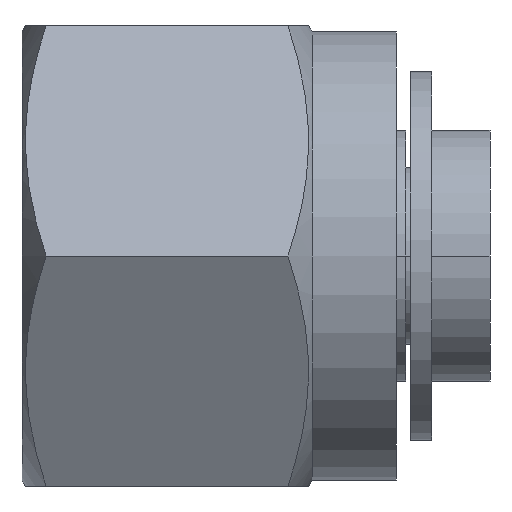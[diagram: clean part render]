
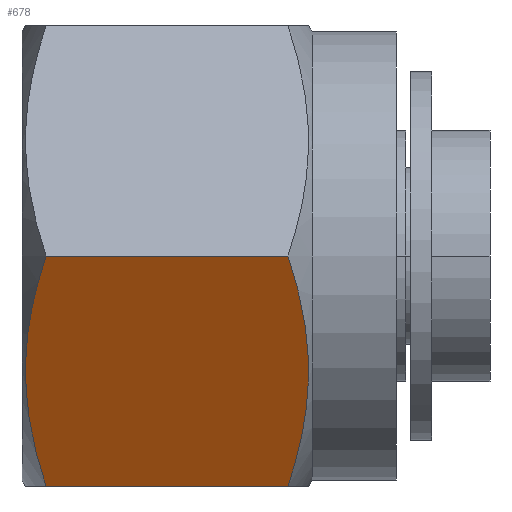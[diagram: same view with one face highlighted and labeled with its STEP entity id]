
A CAD part, front view. The second image highlights one B-rep face of the part: STEP entity #678.
In plain terms, the highlighted planar face has unit normal (0, -0.866, -0.5).
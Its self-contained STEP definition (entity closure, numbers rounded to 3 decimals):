
#491 = VERTEX_POINT ( 'NONE', #1834 ) ;
#493 = EDGE_CURVE ( 'NONE', #491, #494, #1827, .T. ) ;
#494 = VERTEX_POINT ( 'NONE', #1826 ) ;
#652 = VERTEX_POINT ( 'NONE', #2228 ) ;
#654 = EDGE_CURVE ( 'NONE', #652, #655, #2279, .T. ) ;
#655 = VERTEX_POINT ( 'NONE', #2278 ) ;
#667 = ORIENTED_EDGE ( 'NONE', *, *, #493, .F. ) ;
#668 = ORIENTED_EDGE ( 'NONE', *, *, #669, .F. ) ;
#669 = EDGE_CURVE ( 'NONE', #655, #491, #2305, .T. ) ;
#670 = ORIENTED_EDGE ( 'NONE', *, *, #654, .F. ) ;
#671 = ORIENTED_EDGE ( 'NONE', *, *, #675, .T. ) ;
#675 = EDGE_CURVE ( 'NONE', #652, #494, #2301, .T. ) ;
#678 = ADVANCED_FACE ( 'NONE', ( #2297 ), #2294, .F. ) ;
#679 = EDGE_LOOP ( 'NONE', ( #667, #668, #670, #671 ) ) ;
#955 = CARTESIAN_POINT ( 'NONE',  ( 14.2, -10.081, 0. ) ) ;
#1202 = DIRECTION ( 'NONE',  ( 0., 0.866, 0.5 ) ) ;
#1457 = DIRECTION ( 'NONE',  ( 0., -0.5, 0.866 ) ) ;
#1814 = CARTESIAN_POINT ( 'NONE',  ( 0.913, -10.081, 0. ) ) ;
#1815 = CARTESIAN_POINT ( 'NONE',  ( 0.675, -9.669, -0.714 ) ) ;
#1816 = CARTESIAN_POINT ( 'NONE',  ( 0.478, -9.253, -1.433 ) ) ;
#1817 = CARTESIAN_POINT ( 'NONE',  ( 0.275, -8.622, -2.526 ) ) ;
#1818 = CARTESIAN_POINT ( 'NONE',  ( 0.222, -8.411, -2.892 ) ) ;
#1819 = CARTESIAN_POINT ( 'NONE',  ( 0.151, -7.985, -3.629 ) ) ;
#1820 = CARTESIAN_POINT ( 'NONE',  ( 0.133, -7.77, -4.002 ) ) ;
#1821 = CARTESIAN_POINT ( 'NONE',  ( 0.133, -7.127, -5.116 ) ) ;
#1822 = CARTESIAN_POINT ( 'NONE',  ( 0.208, -6.704, -5.849 ) ) ;
#1823 = CARTESIAN_POINT ( 'NONE',  ( 0.479, -5.866, -7.299 ) ) ;
#1824 = CARTESIAN_POINT ( 'NONE',  ( 0.675, -5.452, -8.017 ) ) ;
#1825 = CARTESIAN_POINT ( 'NONE',  ( 0.913, -5.04, -8.73 ) ) ;
#1826 = CARTESIAN_POINT ( 'NONE',  ( 0.913, -10.081, 0. ) ) ;
#1827 = B_SPLINE_CURVE_WITH_KNOTS ( 'NONE', 3,
 ( #1825, #1824, #1823, #1822, #1821, #1820, #1819, #1818, #1817, #1816, #1815, #1814 ),
 .UNSPECIFIED., .F., .F.,
 ( 4, 2, 2, 2, 2, 4 ),
 ( 0., 0.003, 0.005, 0.006, 0.008, 0.01 ),
 .UNSPECIFIED. ) ;
#1834 = CARTESIAN_POINT ( 'NONE',  ( 0.913, -5.04, -8.73 ) ) ;
#2228 = CARTESIAN_POINT ( 'NONE',  ( 10.087, -10.081, 0. ) ) ;
#2265 = CARTESIAN_POINT ( 'NONE',  ( 10.087, -5.04, -8.73 ) ) ;
#2266 = CARTESIAN_POINT ( 'NONE',  ( 10.325, -5.452, -8.016 ) ) ;
#2267 = CARTESIAN_POINT ( 'NONE',  ( 10.522, -5.868, -7.297 ) ) ;
#2268 = CARTESIAN_POINT ( 'NONE',  ( 10.725, -6.498, -6.204 ) ) ;
#2269 = CARTESIAN_POINT ( 'NONE',  ( 10.778, -6.71, -5.838 ) ) ;
#2270 = CARTESIAN_POINT ( 'NONE',  ( 10.849, -7.136, -5.101 ) ) ;
#2271 = CARTESIAN_POINT ( 'NONE',  ( 10.867, -7.351, -4.728 ) ) ;
#2272 = CARTESIAN_POINT ( 'NONE',  ( 10.867, -7.994, -3.614 ) ) ;
#2273 = CARTESIAN_POINT ( 'NONE',  ( 10.792, -8.417, -2.881 ) ) ;
#2274 = CARTESIAN_POINT ( 'NONE',  ( 10.521, -9.255, -1.431 ) ) ;
#2275 = CARTESIAN_POINT ( 'NONE',  ( 10.325, -9.669, -0.713 ) ) ;
#2276 = CARTESIAN_POINT ( 'NONE',  ( 10.087, -10.081, 0. ) ) ;
#2278 = CARTESIAN_POINT ( 'NONE',  ( 10.087, -5.04, -8.73 ) ) ;
#2279 = B_SPLINE_CURVE_WITH_KNOTS ( 'NONE', 3,
 ( #2276, #2275, #2274, #2273, #2272, #2271, #2270, #2269, #2268, #2267, #2266, #2265 ),
 .UNSPECIFIED., .F., .F.,
 ( 4, 2, 2, 2, 2, 4 ),
 ( 0., 0.003, 0.005, 0.006, 0.008, 0.01 ),
 .UNSPECIFIED. ) ;
#2293 = AXIS2_PLACEMENT_3D ( 'NONE', #955, #1202, #1457 ) ;
#2294 = PLANE ( 'NONE',  #2293 ) ;
#2297 = FACE_OUTER_BOUND ( 'NONE', #679, .T. ) ;
#2298 = DIRECTION ( 'NONE',  ( -1., 0., 0. ) ) ;
#2299 = VECTOR ( 'NONE', #2298, 1000. ) ;
#2300 = CARTESIAN_POINT ( 'NONE',  ( 14.2, -10.081, 0. ) ) ;
#2301 = LINE ( 'NONE', #2300, #2299 ) ;
#2302 = DIRECTION ( 'NONE',  ( -1., 0., 0. ) ) ;
#2303 = VECTOR ( 'NONE', #2302, 1000. ) ;
#2304 = CARTESIAN_POINT ( 'NONE',  ( 14.2, -5.04, -8.73 ) ) ;
#2305 = LINE ( 'NONE', #2304, #2303 ) ;
